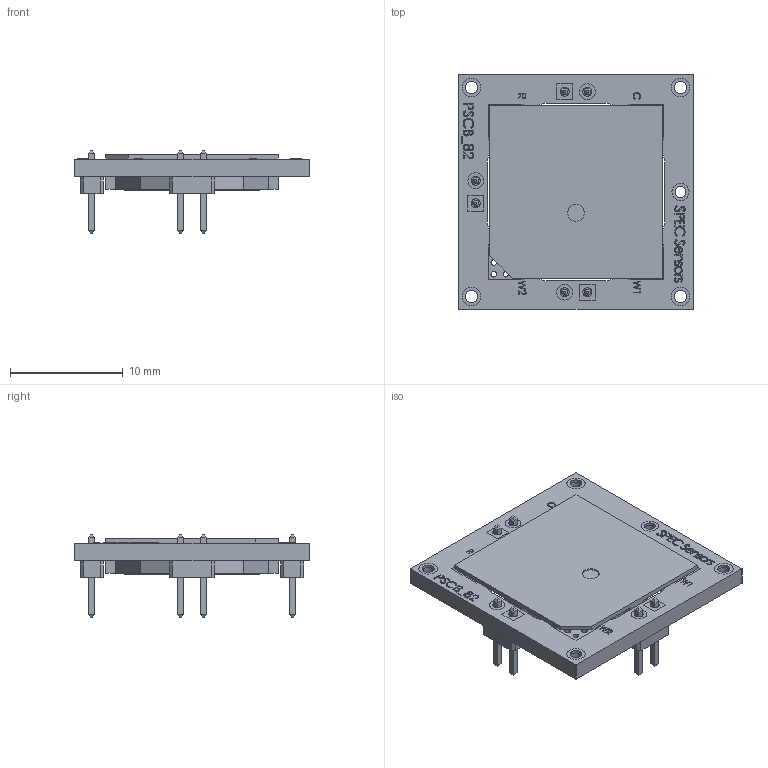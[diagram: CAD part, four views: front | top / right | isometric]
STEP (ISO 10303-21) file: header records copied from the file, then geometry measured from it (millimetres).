
FILE_DESCRIPTION (( 'STEP AP214' ), '1' );
FILE_NAME ('110-601 STEP.STEP', '2023-06-20T22:50:59', ( '' ), ( '' ), 'SwSTEP 2.0', 'SolidWorks 2017', '' );
FILE_SCHEMA (( 'AUTOMOTIVE_DESIGN' ));
Length unit declared in the file: millimetre
Products named in the file (6): 110-601 STEP; 981-001; 100-605 STEP; pinconnector; Zebra Barcode
Assembly tree (7 placements, depth 3):
  110-601 STEP
    100-605 STEP
    Zebra Barcode
    981-001
      981-001
      pinconnector  x3
Bounding box: 20.83 x 20.83 x 7.3 mm (x, y, z)
Volume: 869.8 mm3; surface area: 1997.4 mm2
Topology: 51 solids, 51 shells, 767 faces, 1939 edges, 1290 vertices
Faces by surface type: plane 432, bspline 191, cylinder 144
Full cylindrical faces by diameter (mm): 0.5 x64, 0.787 x12, 0.965 x2, 1.067 x8, 1.397 x6, 1.5 x1, 1.524 x2, 1.651 x8, 12 x1
Entity records: 34315 total; most frequent: CARTESIAN_POINT 14010, ORIENTED_EDGE 3270, DIRECTION 2563, EDGE_CURVE 1635, VERTEX_POINT 1154, EDGE_LOOP 1003, LINE 965, VECTOR 965
